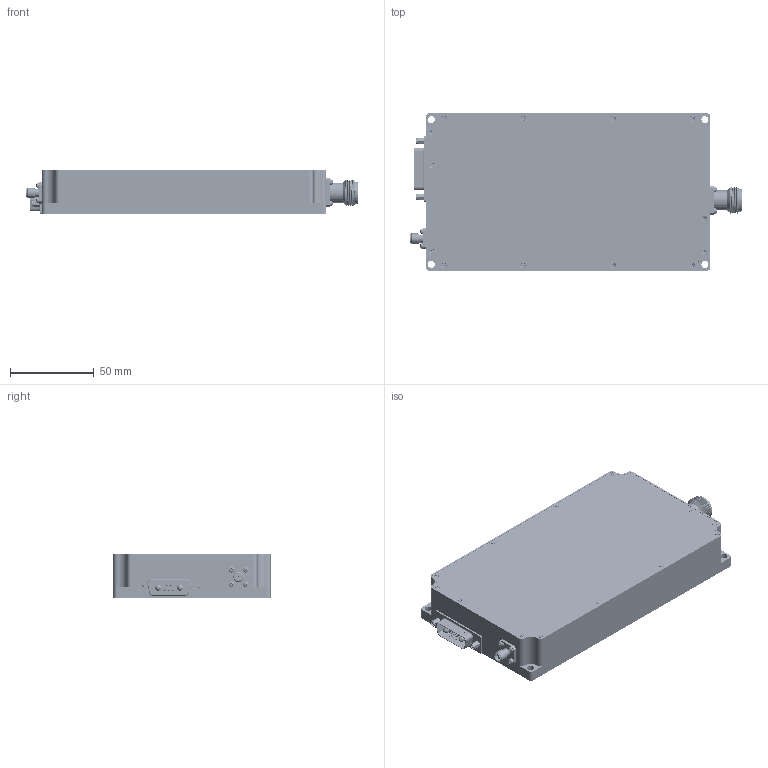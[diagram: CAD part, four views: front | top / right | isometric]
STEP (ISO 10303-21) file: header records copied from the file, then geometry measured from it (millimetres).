
FILE_DESCRIPTION (( 'STEP AP203' ), '1' );
FILE_NAME ('PA0330-100W.STEP', '2026-09-10T12:28:32', ( 'Windows User' ), ( 'P R C' ), 'SwSTEP 2.0', 'SolidWorks 2013', '' );
FILE_SCHEMA (( 'CONFIG_CONTROL_DESIGN' ));
Length unit declared in the file: millimetre
Products named in the file (10): SMA-_X2_5fae5e26_X0_4mm_X2_4ecb8d287a7f5899_X0__1; D-Sub Connector  5+2 Combo Plug Male Pins_1; 0330-100_X2_76d6677f_X0_; PA0330-100W; 麥芛蹟隊M1.6X4; N-KFD_1; m2蹟翐; 0.3-3G100_X2_5e9590e876d6677f_X0__1; 郪磁蹟隊M2X8; 0330-100_X2_4e3b4f53_X0__1
Assembly tree (43 placements, depth 2):
  PA0330-100W
    D-Sub Connector  5+2 Combo Plug Male Pins_1
    N-KFD_1
    SMA-_X2_5fae5e26_X0_4mm_X2_4ecb8d287a7f5899_X0__1
    0.3-3G100_X2_5e9590e876d6677f_X0__1
    0330-100_X2_4e3b4f53_X0__1
    0330-100_X2_76d6677f_X0_
    郪磁蹟隊M2X8  x8
    麥芛蹟隊M1.6X4  x27
    m2蹟翐  x2
Bounding box: 198.38 x 94 x 26.5 mm (x, y, z)
Volume: 163687.9 mm3; surface area: 107925.5 mm2
Topology: 56 solids, 58 shells, 3167 faces, 8524 edges, 5507 vertices
Faces by surface type: cylinder 1921, plane 831, cone 238, bspline 144, torus 18, sphere 15
Entity records: 49129 total; most frequent: CARTESIAN_POINT 22127, DIRECTION 5290, ORIENTED_EDGE 5220, EDGE_CURVE 2611, AXIS2_PLACEMENT_3D 2015, VERTEX_POINT 1684, LINE 1260, VECTOR 1260
